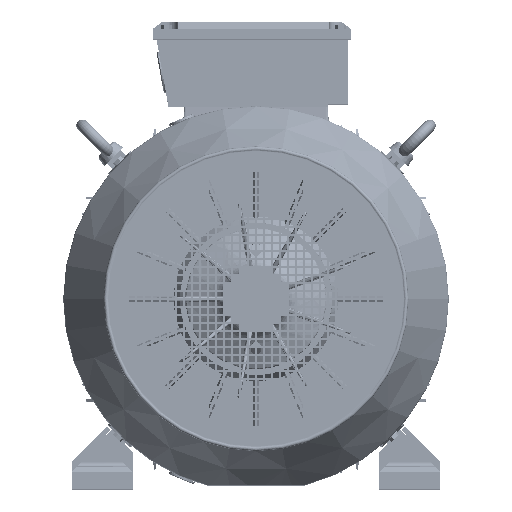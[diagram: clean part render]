
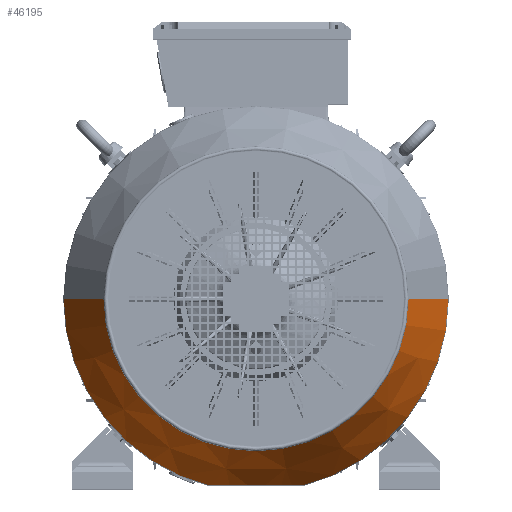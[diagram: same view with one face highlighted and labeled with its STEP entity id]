
A CAD part, top view. The second image highlights one B-rep face of the part: STEP entity #46195.
In plain terms, the highlighted conical face has half-angle 28.793 degrees and reference radius 200.371 mm.
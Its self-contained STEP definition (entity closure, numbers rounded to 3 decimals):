
#44887 = EDGE_CURVE ( 'NONE', #44893, #45232, #154301, .T. ) ;
#44893 = VERTEX_POINT ( 'NONE', #154478 ) ;
#44954 = VERTEX_POINT ( 'NONE', #154628 ) ;
#45162 = EDGE_CURVE ( 'NONE', #45166, #45168, #155309, .T. ) ;
#45166 = VERTEX_POINT ( 'NONE', #155295 ) ;
#45168 = VERTEX_POINT ( 'NONE', #155291 ) ;
#45218 = EDGE_CURVE ( 'NONE', #45166, #44954, #155546, .T. ) ;
#45232 = VERTEX_POINT ( 'NONE', #155668 ) ;
#45342 = EDGE_CURVE ( 'NONE', #45168, #45232, #155809, .T. ) ;
#45965 = EDGE_CURVE ( 'NONE', #44954, #45967, #158883, .T. ) ;
#45967 = VERTEX_POINT ( 'NONE', #158854 ) ;
#46088 = ORIENTED_EDGE ( 'NONE', *, *, #44887, .F. ) ;
#46195 = ADVANCED_FACE ( 'NONE', ( #159869 ), #160054, .T. ) ;
#46199 = EDGE_LOOP ( 'NONE', ( #46207, #46217, #46221, #46088, #46417, #46425 ) ) ;
#46207 = ORIENTED_EDGE ( 'NONE', *, *, #45218, .F. ) ;
#46217 = ORIENTED_EDGE ( 'NONE', *, *, #45162, .T. ) ;
#46221 = ORIENTED_EDGE ( 'NONE', *, *, #45342, .T. ) ;
#46417 = ORIENTED_EDGE ( 'NONE', *, *, #46420, .T. ) ;
#46420 = EDGE_CURVE ( 'NONE', #44893, #45967, #161056, .T. ) ;
#46425 = ORIENTED_EDGE ( 'NONE', *, *, #45965, .F. ) ;
#154291 = DIRECTION ( 'NONE',  ( 1., 0., 0. ) ) ;
#154294 = DIRECTION ( 'NONE',  ( 0., 0., 1. ) ) ;
#154297 = CARTESIAN_POINT ( 'NONE',  ( 0., 0., -113.775 ) ) ;
#154298 = AXIS2_PLACEMENT_3D ( 'NONE', #154297, #154294, #154291 ) ;
#154301 = CIRCLE ( 'NONE', #154298, 252.335 ) ;
#154478 = CARTESIAN_POINT ( 'NONE',  ( 60.397, -245., -113.775 ) ) ;
#154628 = CARTESIAN_POINT ( 'NONE',  ( -252.335, 0., -113.775 ) ) ;
#155291 = CARTESIAN_POINT ( 'NONE',  ( 200.371, 0., -208.325 ) ) ;
#155295 = CARTESIAN_POINT ( 'NONE',  ( -200.371, 0., -208.325 ) ) ;
#155301 = DIRECTION ( 'NONE',  ( 1., 0., 0. ) ) ;
#155303 = DIRECTION ( 'NONE',  ( 0., 0., 1. ) ) ;
#155304 = CARTESIAN_POINT ( 'NONE',  ( 0., 0., -208.325 ) ) ;
#155307 = AXIS2_PLACEMENT_3D ( 'NONE', #155304, #155303, #155301 ) ;
#155309 = CIRCLE ( 'NONE', #155307, 200.371 ) ;
#155536 = DIRECTION ( 'NONE',  ( -0.482, 0., 0.876 ) ) ;
#155538 = VECTOR ( 'NONE', #155536, 1000. ) ;
#155542 = CARTESIAN_POINT ( 'NONE',  ( -200.371, 0., -208.325 ) ) ;
#155546 = LINE ( 'NONE', #155542, #155538 ) ;
#155668 = CARTESIAN_POINT ( 'NONE',  ( 252.335, 0., -113.775 ) ) ;
#155806 = VECTOR ( 'NONE', #156003, 1000. ) ;
#155808 = CARTESIAN_POINT ( 'NONE',  ( 200.371, 0., -208.325 ) ) ;
#155809 = LINE ( 'NONE', #155808, #155806 ) ;
#156003 = DIRECTION ( 'NONE',  ( 0.482, 0., 0.876 ) ) ;
#158854 = CARTESIAN_POINT ( 'NONE',  ( -60.397, -245., -113.775 ) ) ;
#158873 = DIRECTION ( 'NONE',  ( 1., 0., 0. ) ) ;
#158876 = DIRECTION ( 'NONE',  ( 0., 0., 1. ) ) ;
#158879 = CARTESIAN_POINT ( 'NONE',  ( 0., 0., -113.775 ) ) ;
#158881 = AXIS2_PLACEMENT_3D ( 'NONE', #158879, #158876, #158873 ) ;
#158883 = CIRCLE ( 'NONE', #158881, 252.335 ) ;
#159869 = FACE_OUTER_BOUND ( 'NONE', #46199, .T. ) ;
#160040 = DIRECTION ( 'NONE',  ( 1., 0., 0. ) ) ;
#160042 = DIRECTION ( 'NONE',  ( 0., 0., 1. ) ) ;
#160043 = CARTESIAN_POINT ( 'NONE',  ( 0., 0., -208.325 ) ) ;
#160045 = AXIS2_PLACEMENT_3D ( 'NONE', #160043, #160042, #160040 ) ;
#160054 = CONICAL_SURFACE ( 'NONE', #160045, 200.371, 0.503 ) ;
#161056 = B_SPLINE_CURVE_WITH_KNOTS ( 'NONE', 3,
 ( #161229, #161227, #161225, #161224, #161223, #161222, #161221, #161219, #161216, #161212, #161209, #161208, #161206, #161204, #161202, #161199, #161196, #161193, #161191, #161190, #161188, #161184, #161181, #161179 ),
 .UNSPECIFIED., .F., .F.,
 ( 4, 2, 2, 2, 2, 2, 2, 2, 2, 2, 2, 4 ),
 ( 0.067, 0.075, 0.083, 0.098, 0.113, 0.121, 0.125, 0.129, 0.16, 0.168, 0.175, 0.191 ),
 .UNSPECIFIED. ) ;
#161179 = CARTESIAN_POINT ( 'NONE',  ( -60.397, -245., -113.775 ) ) ;
#161181 = CARTESIAN_POINT ( 'NONE',  ( -55.679, -245., -115.829 ) ) ;
#161184 = CARTESIAN_POINT ( 'NONE',  ( -50.859, -245., -117.702 ) ) ;
#161188 = CARTESIAN_POINT ( 'NONE',  ( -43.45, -245., -120.186 ) ) ;
#161190 = CARTESIAN_POINT ( 'NONE',  ( -40.943, -245., -120.961 ) ) ;
#161191 = CARTESIAN_POINT ( 'NONE',  ( -35.922, -245., -122.377 ) ) ;
#161193 = CARTESIAN_POINT ( 'NONE',  ( -33.403, -245., -123.019 ) ) ;
#161196 = CARTESIAN_POINT ( 'NONE',  ( -20.762, -245., -125.895 ) ) ;
#161199 = CARTESIAN_POINT ( 'NONE',  ( -10.505, -245., -127.114 ) ) ;
#161202 = CARTESIAN_POINT ( 'NONE',  ( 1.217, -245., -127.121 ) ) ;
#161204 = CARTESIAN_POINT ( 'NONE',  ( 2.522, -245., -127.103 ) ) ;
#161206 = CARTESIAN_POINT ( 'NONE',  ( 5.137, -245., -127.029 ) ) ;
#161208 = CARTESIAN_POINT ( 'NONE',  ( 6.449, -245., -126.972 ) ) ;
#161209 = CARTESIAN_POINT ( 'NONE',  ( 10.366, -245., -126.747 ) ) ;
#161212 = CARTESIAN_POINT ( 'NONE',  ( 12.962, -245., -126.521 ) ) ;
#161216 = CARTESIAN_POINT ( 'NONE',  ( 20.702, -245., -125.63 ) ) ;
#161219 = CARTESIAN_POINT ( 'NONE',  ( 25.801, -245., -124.748 ) ) ;
#161221 = CARTESIAN_POINT ( 'NONE',  ( 35.884, -245., -122.456 ) ) ;
#161222 = CARTESIAN_POINT ( 'NONE',  ( 40.869, -245., -121.047 ) ) ;
#161223 = CARTESIAN_POINT ( 'NONE',  ( 48.268, -245., -118.573 ) ) ;
#161224 = CARTESIAN_POINT ( 'NONE',  ( 50.723, -245., -117.687 ) ) ;
#161225 = CARTESIAN_POINT ( 'NONE',  ( 55.603, -245., -115.804 ) ) ;
#161227 = CARTESIAN_POINT ( 'NONE',  ( 58.014, -245., -114.812 ) ) ;
#161229 = CARTESIAN_POINT ( 'NONE',  ( 60.397, -245., -113.775 ) ) ;
